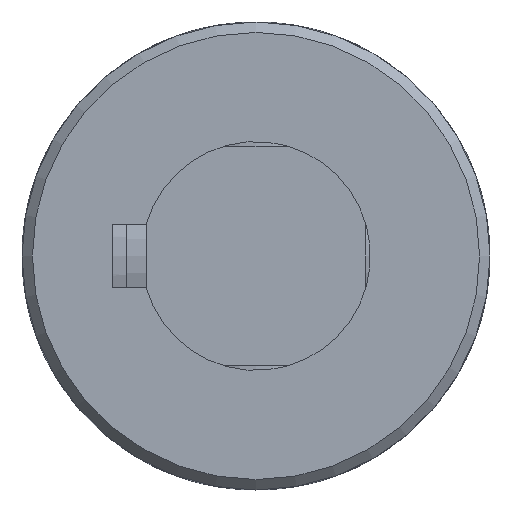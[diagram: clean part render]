
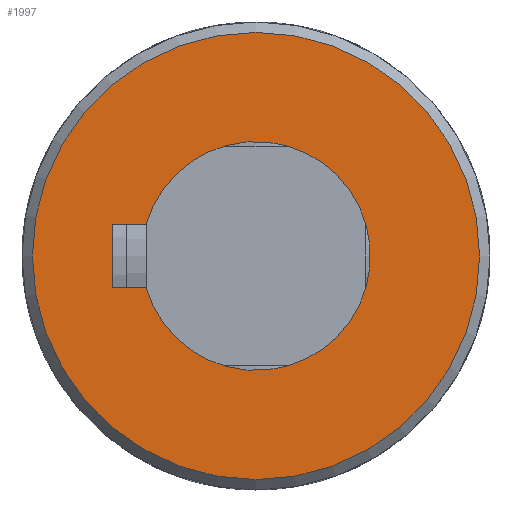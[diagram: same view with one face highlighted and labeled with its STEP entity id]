
A CAD part, front view. The second image highlights one B-rep face of the part: STEP entity #1997.
In plain terms, the highlighted planar face has unit normal (0, -1, 0).
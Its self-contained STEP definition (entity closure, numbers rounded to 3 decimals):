
#123=LINE('',#3609,#192);
#127=LINE('',#3632,#196);
#129=LINE('',#3640,#198);
#192=VECTOR('',#2557,3.217);
#196=VECTOR('',#2569,6.);
#198=VECTOR('',#2573,3.217);
#260=PLANE('',#2186);
#437=FACE_BOUND('',#695,.T.);
#532=FACE_OUTER_BOUND('',#694,.T.);
#694=EDGE_LOOP('',(#1677));
#695=EDGE_LOOP('',(#1678,#1679,#1680,#1681));
#818=CIRCLE('',#2173,11.);
#824=CIRCLE('',#2184,21.5);
#972=VERTEX_POINT('',#3606);
#973=VERTEX_POINT('',#3608);
#976=VERTEX_POINT('',#3618);
#978=VERTEX_POINT('',#3630);
#987=VERTEX_POINT('',#3719);
#1214=EDGE_CURVE('',#973,#972,#123,.T.);
#1218=EDGE_CURVE('',#976,#973,#818,.T.);
#1222=EDGE_CURVE('',#972,#978,#127,.T.);
#1225=EDGE_CURVE('',#978,#976,#129,.T.);
#1235=EDGE_CURVE('',#987,#987,#824,.T.);
#1677=ORIENTED_EDGE('',*,*,#1235,.F.);
#1678=ORIENTED_EDGE('',*,*,#1214,.T.);
#1679=ORIENTED_EDGE('',*,*,#1222,.T.);
#1680=ORIENTED_EDGE('',*,*,#1225,.T.);
#1681=ORIENTED_EDGE('',*,*,#1218,.T.);
#1997=ADVANCED_FACE('',(#532,#437),#260,.F.);
#2173=AXIS2_PLACEMENT_3D('',#3619,#2563,#2564);
#2184=AXIS2_PLACEMENT_3D('',#3720,#2590,#2591);
#2186=AXIS2_PLACEMENT_3D('',#3904,#2598,#2599);
#2557=DIRECTION('',(0.,0.,-1.));
#2563=DIRECTION('center_axis',(0.,1.,0.));
#2564=DIRECTION('ref_axis',(-0.273,0.,0.962));
#2569=DIRECTION('',(-1.,0.,0.));
#2573=DIRECTION('',(0.,0.,1.));
#2590=DIRECTION('center_axis',(0.,1.,0.));
#2591=DIRECTION('ref_axis',(1.,0.,0.));
#2598=DIRECTION('center_axis',(0.,1.,0.));
#2599=DIRECTION('ref_axis',(0.,0.,1.));
#3606=CARTESIAN_POINT('',(3.,-58.,-13.8));
#3608=CARTESIAN_POINT('',(3.,-58.,-10.583));
#3609=CARTESIAN_POINT('',(3.,-58.,-5.292));
#3618=CARTESIAN_POINT('',(-3.,-58.,-10.583));
#3619=CARTESIAN_POINT('Origin',(0.,-58.,0.));
#3630=CARTESIAN_POINT('',(-3.,-58.,-13.8));
#3632=CARTESIAN_POINT('',(1.5,-58.,-13.8));
#3640=CARTESIAN_POINT('',(-3.,-58.,-6.9));
#3719=CARTESIAN_POINT('',(-21.5,-58.,0.));
#3720=CARTESIAN_POINT('Origin',(0.,-58.,0.));
#3904=CARTESIAN_POINT('Origin',(0.,-58.,0.));
